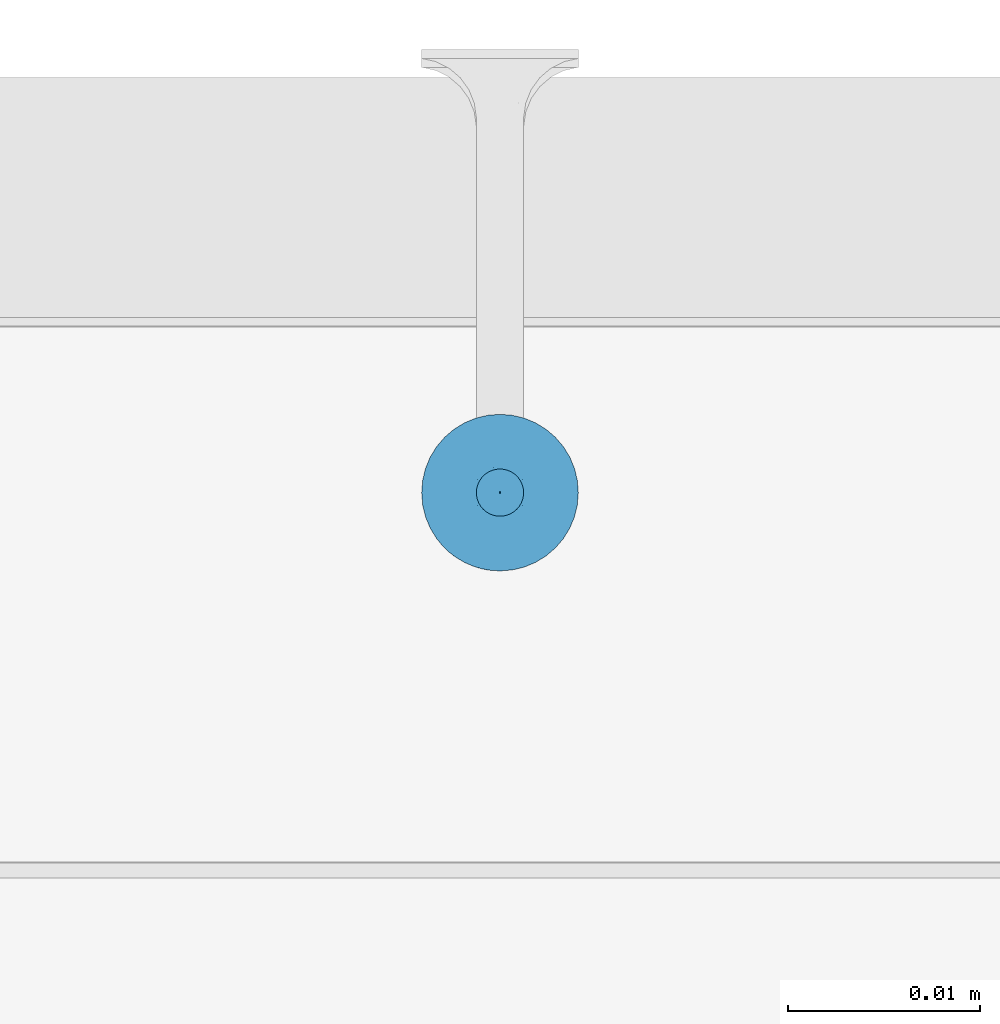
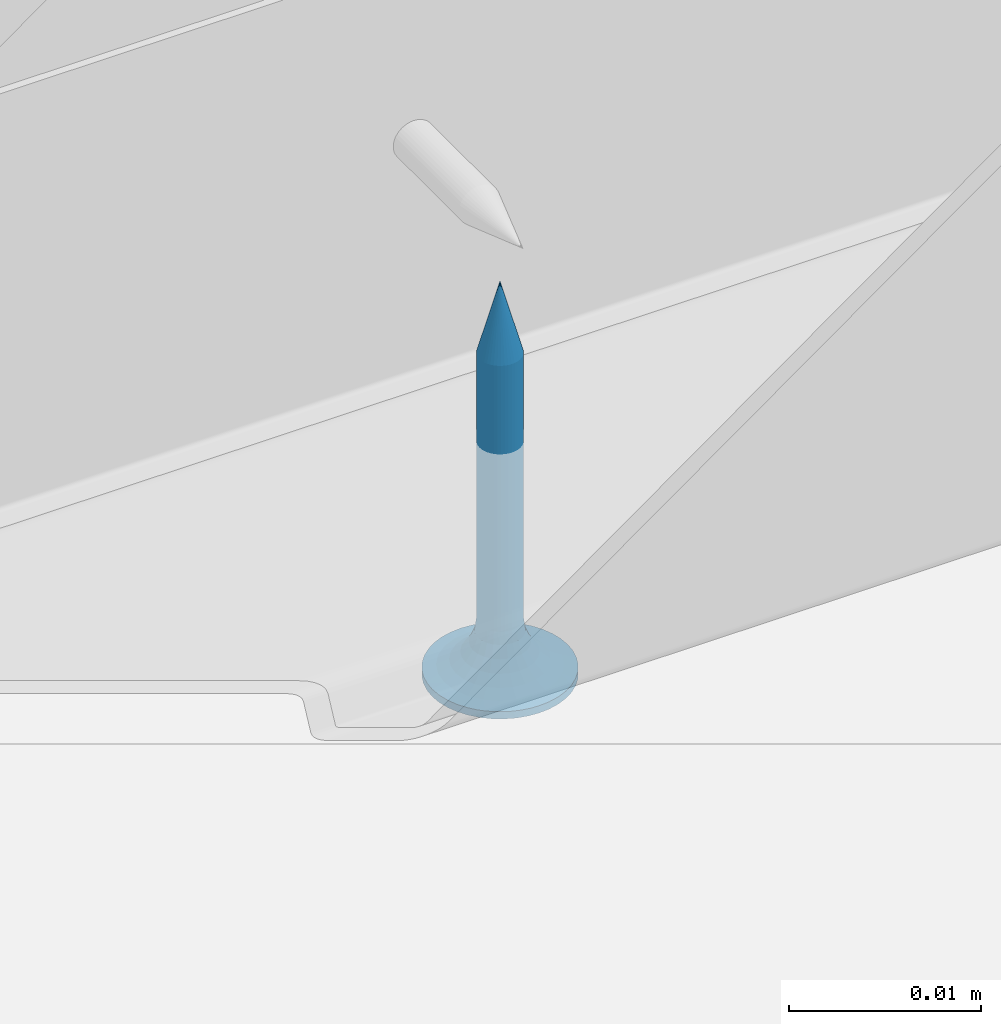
# One storey, part 76 of 79: 1 slab.
"""IFC2X3 building model written with IfcOpenShell, lengths in millimetres."""

from ifc_helpers import new_model, entity, si_unit, converted_unit, direction, frame, origin, origin_with_axes, place, context, project, spatial, faceted_brep, element, save


model = new_model("IFC2X3")

# Units and contexts
model_context = context("Model", 3, precision=1e-05, world=origin(), true_north=direction((0.0, 1.0, 0.0)))
ifc_project = project(units=[si_unit("LENGTHUNIT", "METRE", prefix="MILLI"), si_unit("AREAUNIT", "SQUARE_METRE"), si_unit("VOLUMEUNIT", "CUBIC_METRE"), converted_unit("PLANEANGLEUNIT", "DEGREE", entity("IfcPlaneAngleMeasure", 0.01745), si_unit("PLANEANGLEUNIT", "RADIAN"), dimensions=[0, 0, 0, 0, 0, 0, 0]), si_unit("SOLIDANGLEUNIT", "STERADIAN"), si_unit("MASSUNIT", "GRAM"), si_unit("TIMEUNIT", "SECOND"), si_unit("THERMODYNAMICTEMPERATUREUNIT", "DEGREE_CELSIUS"), si_unit("LUMINOUSINTENSITYUNIT", "LUMEN")], contexts=[model_context])

# Site, building, storey
site_placement = place(None, origin_with_axes())
site = spatial("IfcSite", under=ifc_project, at=site_placement, Name="Default Site", CompositionType="ELEMENT")
building_placement = place(site_placement, origin_with_axes())
building = spatial("IfcBuilding", under=site, at=building_placement, Name="Default Building", CompositionType="ELEMENT")
storey_placement = place(building_placement, origin_with_axes())
storey = spatial("IfcBuildingStorey", under=building, at=storey_placement, Name="Default Building Storey", CompositionType="ELEMENT", Elevation=0.0)

# Slab
slab_placement = place(storey_placement, frame((3434.616074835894, 1657.000565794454, 4371.306162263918), z_axis=(0.0, 1.0, 2.220446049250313e-16), x_axis=(1.0, -1.802054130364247e-31, 8.115730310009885e-16)))
element("IfcSlab", 1, at=slab_placement, inside=storey, Name="Wkręt RIGIPS TN 25", context=model_context, shape_type="Brep", body=[
    faceted_brep([(-136.5890362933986, 3387.475459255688, 554.9298199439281), (-136.4636235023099, 3387.475459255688, 555.0766594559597), (-136.4636235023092, 3370.55807436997, 555.0766594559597), (-136.5890362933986, 3370.55807436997, 554.9298199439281), (-136.9005263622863, 3387.475459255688, 554.7035091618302), (-136.9005263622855, 3370.55807436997, 554.7035091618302), (-137.0789337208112, 3370.55807436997, 554.6296104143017), (-137.078933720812, 3387.475459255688, 554.6296104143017), (-137.2667048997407, 3387.475459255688, 554.5845305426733), (-137.2667048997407, 3370.55807436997, 554.5845305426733), (-137.4592163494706, 3370.55807436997, 554.5693795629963), (-137.4592163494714, 3387.475459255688, 554.5693795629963), (-136.4636235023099, 3387.475459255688, 556.5233405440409), (-136.5890362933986, 3387.475459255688, 556.6701800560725), (-136.5890362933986, 3370.55807436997, 556.6701800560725), (-136.4636235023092, 3370.55807436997, 556.5233405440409), (-138.4548091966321, 3370.55807436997, 556.5233405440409), (-138.3293964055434, 3370.55807436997, 556.6701800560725), (-138.3293964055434, 3387.475459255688, 556.6701800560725), (-138.4548091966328, 3387.475459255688, 556.5233405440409), (-136.7358758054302, 3370.55807436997, 554.8044071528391), (-136.7358758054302, 3387.475459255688, 554.8044071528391), (-138.1825568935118, 3387.475459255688, 556.7955928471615), (-138.1825568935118, 3370.55807436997, 556.7955928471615), (-138.0179063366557, 3370.55807436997, 556.8964908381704), (-138.0179063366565, 3387.475459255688, 556.8964908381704), (-136.3627255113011, 3387.475459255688, 556.3586899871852), (-136.3627255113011, 3370.55807436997, 556.3586899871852), (-136.7358758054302, 3387.475459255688, 556.7955928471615), (-136.7358758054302, 3370.55807436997, 556.7955928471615), (-137.6517277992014, 3387.475459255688, 554.5845305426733), (-137.6517277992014, 3370.55807436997, 554.5845305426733), (-137.83949897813, 3370.55807436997, 554.6296104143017), (-137.8394989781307, 3387.475459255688, 554.6296104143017), (-136.3627255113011, 3387.475459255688, 555.241310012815), (-136.3627255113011, 3370.55807436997, 555.241310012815), (-138.0179063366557, 3370.55807436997, 554.7035091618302), (-138.0179063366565, 3387.475459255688, 554.7035091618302), (-138.6746858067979, 3370.55807436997, 555.6074885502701), (-138.6898367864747, 3370.55807436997, 555.8000000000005), (-138.6898367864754, 3387.475459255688, 555.8000000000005), (-138.6746858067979, 3387.475459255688, 555.6074885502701), (-136.2285959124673, 3387.475459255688, 555.8000000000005), (-136.2437468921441, 3387.475459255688, 555.9925114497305), (-136.2437468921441, 3370.55807436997, 555.9925114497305), (-136.2285959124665, 3370.55807436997, 555.8000000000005), (-138.3293964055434, 3370.55807436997, 554.9298199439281), (-138.4548091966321, 3370.55807436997, 555.0766594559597), (-138.4548091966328, 3387.475459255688, 555.0766594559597), (-138.3293964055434, 3387.475459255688, 554.9298199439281), (-137.83949897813, 3370.55807436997, 556.9703895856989), (-137.8394989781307, 3387.475459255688, 556.9703895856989), (-138.1825568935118, 3370.55807436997, 554.8044071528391), (-138.1825568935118, 3387.475459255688, 554.8044071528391), (-138.5557071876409, 3370.55807436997, 555.241310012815), (-138.6296059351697, 3370.55807436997, 555.4197173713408), (-138.6296059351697, 3387.475459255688, 555.4197173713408), (-138.5557071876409, 3387.475459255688, 555.241310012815), (-136.2888267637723, 3387.475459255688, 555.4197173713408), (-136.2437468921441, 3387.475459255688, 555.6074885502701), (-136.2437468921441, 3370.55807436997, 555.6074885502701), (-136.2888267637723, 3370.55807436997, 555.4197173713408), (-136.2888267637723, 3387.475459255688, 556.1802826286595), (-136.2888267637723, 3370.55807436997, 556.1802826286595), (-137.4592163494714, 3387.475459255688, 557.0306204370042), (-137.4592163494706, 3370.55807436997, 557.0306204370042), (-137.2667048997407, 3370.55807436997, 557.0154694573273), (-137.2667048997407, 3387.475459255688, 557.0154694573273), (-137.0789337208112, 3370.55807436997, 556.9703895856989), (-137.078933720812, 3387.475459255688, 556.9703895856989), (-137.6517277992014, 3387.475459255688, 557.0154694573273), (-137.6517277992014, 3370.55807436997, 557.0154694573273), (-136.9005263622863, 3387.475459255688, 556.8964908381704), (-136.9005263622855, 3370.55807436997, 556.8964908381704), (-138.6296059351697, 3370.55807436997, 556.1802826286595), (-138.5557071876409, 3370.55807436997, 556.3586899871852), (-138.5557071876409, 3387.475459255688, 556.3586899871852), (-138.6296059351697, 3387.475459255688, 556.1802826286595), (-138.6746858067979, 3370.55807436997, 555.9925114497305), (-138.6746858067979, 3387.475459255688, 555.9925114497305), (-141.5377463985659, 3390.556721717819, 555.8000000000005), (-141.5377463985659, 3391.020944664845, 555.8000000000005), (-141.4875329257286, 3391.020944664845, 555.1619773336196), (-141.4875329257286, 3390.556721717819, 555.1619773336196), (-141.338128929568, 3391.020944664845, 554.539664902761), (-141.338128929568, 3390.556721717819, 554.539664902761), (-141.0932132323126, 3391.020944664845, 553.948386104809), (-141.0932132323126, 3390.556721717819, 553.948386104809), (-140.7588164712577, 3391.020944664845, 553.4027001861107), (-140.7588164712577, 3390.556721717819, 553.4027001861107), (-140.3431726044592, 3391.020944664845, 552.9160437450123), (-140.4541727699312, 3390.556721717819, 553.0314907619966), (-140.1080097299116, 3390.556721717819, 552.6986614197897), (-139.8565161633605, 3391.020944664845, 552.5003998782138), (-139.7251262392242, 3390.556721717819, 552.4088262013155), (-139.3108302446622, 3391.020944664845, 552.1660031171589), (-139.3108302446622, 3390.556721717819, 552.1660031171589), (-138.8708651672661, 3390.556721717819, 551.9735584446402), (-138.7195514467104, 3391.020944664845, 551.9210874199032), (-138.4113302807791, 3390.556721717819, 551.8341600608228), (-137.9385961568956, 3390.556721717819, 551.7497404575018), (-138.0972390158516, 3391.020944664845, 551.7716834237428), (-137.4592163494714, 3391.020944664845, 551.7214699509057), (-137.4592163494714, 3390.556721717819, 551.7214699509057), (-136.8211936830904, 3391.020944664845, 551.7716834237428), (-136.8211936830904, 3390.556721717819, 551.7716834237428), (-136.1988812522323, 3391.020944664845, 551.9210874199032), (-136.1988812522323, 3390.556721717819, 551.9210874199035), (-135.6076024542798, 3391.020944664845, 552.1660031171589), (-135.6076024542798, 3390.556721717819, 552.1660031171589), (-135.0619165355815, 3391.020944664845, 552.5003998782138), (-135.0619165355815, 3390.556721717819, 552.5003998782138), (-134.5752600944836, 3391.020944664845, 552.9160437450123), (-134.5752600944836, 3390.556721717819, 552.9160437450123), (-134.1596162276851, 3391.020944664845, 553.4027001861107), (-134.1596162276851, 3390.556721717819, 553.4027001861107), (-133.8252194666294, 3391.020944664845, 553.948386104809), (-133.8252194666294, 3390.556721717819, 553.948386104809), (-133.580303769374, 3391.020944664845, 554.539664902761), (-133.580303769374, 3390.556721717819, 554.539664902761), (-133.4308997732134, 3391.020944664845, 556.438022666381), (-133.4308997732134, 3390.556721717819, 556.438022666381), (-133.3806863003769, 3390.556721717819, 555.8000000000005), (-133.3806863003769, 3391.020944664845, 555.8000000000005), (-133.4308997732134, 3390.556721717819, 555.1619773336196), (-133.4308997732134, 3391.020944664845, 555.1619773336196), (-133.580303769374, 3391.020944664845, 557.0603350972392), (-133.580303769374, 3390.556721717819, 557.0603350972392), (-133.8252194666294, 3391.020944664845, 557.6516138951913), (-133.8252194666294, 3390.556721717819, 557.6516138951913), (-134.1596162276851, 3391.020944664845, 558.1972998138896), (-134.1596162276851, 3390.556721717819, 558.1972998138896), (-134.5752600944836, 3391.020944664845, 558.683956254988), (-134.5752600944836, 3390.556721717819, 558.683956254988), (-135.0619165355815, 3391.020944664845, 559.0996001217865), (-135.0619165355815, 3390.556721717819, 559.0996001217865), (-135.6076024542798, 3391.020944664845, 559.4339968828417), (-135.6076024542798, 3390.556721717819, 559.4339968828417), (-136.1988812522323, 3391.020944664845, 559.6789125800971), (-136.1988812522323, 3390.556721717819, 559.6789125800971), (-136.8211936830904, 3391.020944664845, 559.8283165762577), (-136.8211936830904, 3390.556721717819, 559.8283165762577), (-137.4592163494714, 3391.020944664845, 559.8785300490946), (-137.4592163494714, 3390.556721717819, 559.8785300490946), (-138.0972390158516, 3391.020944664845, 559.8283165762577), (-138.0972390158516, 3390.556721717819, 559.8283165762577), (-138.7195514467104, 3391.020944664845, 559.6789125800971), (-138.7195514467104, 3390.556721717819, 559.6789125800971), (-139.3108302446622, 3391.020944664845, 559.4339968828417), (-139.3108302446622, 3390.556721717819, 559.4339968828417), (-139.8565161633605, 3391.020944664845, 559.0996001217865), (-139.8565161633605, 3390.556721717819, 559.0996001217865), (-140.3431726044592, 3391.020944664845, 558.683956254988), (-140.3431726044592, 3390.556721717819, 558.683956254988), (-140.7588164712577, 3391.020944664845, 558.1972998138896), (-140.7588164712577, 3390.556721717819, 558.1972998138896), (-141.0932132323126, 3391.020944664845, 557.6516138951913), (-141.0932132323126, 3390.556721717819, 557.6516138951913), (-141.338128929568, 3391.020944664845, 557.0603350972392), (-141.338128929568, 3390.556721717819, 557.0603350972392), (-141.4875329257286, 3391.020944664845, 556.438022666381), (-141.4875329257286, 3390.556721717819, 556.438022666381), (-137.8060615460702, 3388.229732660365, 554.5055560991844), (-137.4592163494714, 3388.229732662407, 554.4598930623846), (-138.1292698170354, 3388.229732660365, 554.6394333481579), (-138.4068150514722, 3388.229732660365, 554.8524012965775), (-138.6197830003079, 3388.229732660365, 555.1299465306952), (-138.7536602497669, 3388.229732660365, 555.4531548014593), (-138.7993232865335, 3388.229732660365, 555.7999999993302), (-138.7536602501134, 3388.229732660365, 556.1468451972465), (-138.6197830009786, 3388.229732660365, 556.4700534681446), (-138.4068150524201, 3388.229732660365, 556.7475987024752), (-138.1292698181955, 3388.229732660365, 556.9605666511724), (-137.8060615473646, 3388.229732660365, 557.0944439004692), (-137.4592163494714, 3388.229732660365, 557.1401069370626), (-137.1123711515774, 3388.229732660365, 557.0944439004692), (-136.7891628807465, 3388.229732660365, 556.9605666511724), (-136.5116176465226, 3388.229732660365, 556.7475987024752), (-136.2986496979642, 3388.229732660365, 556.4700534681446), (-136.1647724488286, 3388.229732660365, 556.1468451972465), (-136.1191094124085, 3388.229732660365, 555.7999999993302), (-136.1647724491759, 3388.229732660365, 555.4531548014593), (-136.2986496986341, 3388.229732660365, 555.1299465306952), (-136.5116176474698, 3388.229732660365, 554.8524012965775), (-136.7891628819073, 3388.229732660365, 554.6394333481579), (-137.1123711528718, 3388.229732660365, 554.5055560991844), (-137.4592163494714, 3388.936142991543, 554.1737111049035), (-137.8801308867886, 3388.936142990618, 554.2291255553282), (-138.2723607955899, 3388.936142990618, 554.39159250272), (-138.6091762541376, 3388.936142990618, 554.6500400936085), (-138.8676238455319, 3388.936142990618, 554.9868555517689), (-139.0300907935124, 3388.936142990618, 555.3790854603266), (-139.0855052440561, 3388.936142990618, 555.7999999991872), (-139.0300907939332, 3388.936142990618, 556.2209145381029), (-138.8676238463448, 3388.936142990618, 556.6131444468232), (-138.6091762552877, 3388.936142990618, 556.949959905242), (-138.2723607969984, 3388.936142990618, 557.2084074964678), (-137.8801308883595, 3388.936142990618, 557.3708744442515), (-137.4592163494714, 3388.936142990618, 557.4262888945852), (-137.0383018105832, 3388.936142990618, 557.3708744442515), (-136.6460719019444, 3388.936142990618, 557.2084074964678), (-136.3092564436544, 3388.936142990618, 556.949959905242), (-136.0508088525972, 3388.936142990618, 556.6131444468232), (-135.8883419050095, 3388.936142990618, 556.2209145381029), (-135.8329274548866, 3388.936142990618, 555.7999999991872), (-135.8883419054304, 3388.936142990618, 555.3790854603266), (-136.0508088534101, 3388.936142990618, 554.9868555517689), (-136.3092564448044, 3388.936142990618, 554.6500400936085), (-136.6460719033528, 3388.936142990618, 554.39159250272), (-137.0383018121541, 3388.936142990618, 554.2291255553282), (-137.4592163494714, 3389.553938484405, 553.727343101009), (-137.9956594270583, 3389.553938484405, 553.7979671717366), (-138.4955447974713, 3389.553938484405, 554.0050264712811), (-138.9248060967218, 3389.553938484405, 554.3344102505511), (-139.2541898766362, 3389.553938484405, 554.7636715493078), (-139.46124917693, 3389.553938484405, 555.2635569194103), (-139.5318732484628, 3389.553938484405, 555.7999999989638), (-139.4612491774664, 3389.553938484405, 556.3364430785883), (-139.2541898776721, 3389.553938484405, 556.8363284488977), (-138.9248060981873, 3389.553938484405, 557.2655897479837), (-138.495544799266, 3389.553938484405, 557.5949735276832), (-137.9956594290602, 3389.553938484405, 557.8020328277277), (-137.4592163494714, 3389.553938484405, 557.8726568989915), (-136.9227732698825, 3389.553938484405, 557.8020328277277), (-136.422887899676, 3389.553938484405, 557.5949735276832), (-135.9936266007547, 3389.553938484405, 557.2655897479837), (-135.6642428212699, 3389.553938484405, 556.8363284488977), (-135.4571835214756, 3389.553938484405, 556.3364430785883), (-135.3865594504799, 3389.553938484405, 555.7999999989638), (-135.457183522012, 3389.553938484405, 555.2635569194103), (-135.6642428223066, 3389.553938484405, 554.7636715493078), (-135.9936266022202, 3389.553938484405, 554.3344102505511), (-136.4228879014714, 3389.553938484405, 554.0050264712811), (-136.9227732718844, 3389.553938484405, 553.7979671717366), (-137.4592163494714, 3390.04747944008, 553.1465393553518), (-138.1459824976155, 3390.047479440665, 553.2369538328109), (-138.7859466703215, 3390.047479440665, 553.5020356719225), (-139.3354963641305, 3390.047479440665, 553.9237199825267), (-139.757180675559, 3390.047479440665, 554.4732696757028), (-140.0222625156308, 3390.047479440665, 555.1132338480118), (-140.1126769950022, 3390.047479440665, 555.7999999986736), (-140.0222625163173, 3390.047479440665, 556.4867661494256), (-139.7571806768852, 3390.047479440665, 557.1267303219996), (-139.3354963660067, 3390.047479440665, 557.6762800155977), (-138.7859466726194, 3390.047479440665, 558.0979643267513), (-138.1459825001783, 3390.047479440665, 558.3630461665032), (-137.4592163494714, 3390.047479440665, 558.4534606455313), (-136.7724501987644, 3390.047479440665, 558.3630461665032), (-136.1324860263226, 3390.047479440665, 558.0979643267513), (-135.5829363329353, 3390.047479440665, 557.6762800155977), (-135.1612520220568, 3390.047479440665, 557.1267303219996), (-134.8961701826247, 3390.047479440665, 556.4867661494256), (-134.8057557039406, 3390.047479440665, 555.7999999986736), (-134.8961701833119, 3390.047479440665, 555.1132338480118), (-135.1612520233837, 3390.047479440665, 554.4732696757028), (-135.5829363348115, 3390.047479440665, 553.9237199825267), (-136.1324860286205, 3390.047479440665, 553.5020356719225), (-136.7724502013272, 3390.047479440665, 553.2369538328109), (-137.4592163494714, 3390.388294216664, 552.4648055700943), (-138.3224281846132, 3390.388294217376, 552.5784495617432), (-139.1268135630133, 3390.388294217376, 552.9116368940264), (-139.8175549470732, 3390.388294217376, 553.4416613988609), (-140.3475794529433, 3390.388294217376, 554.1324027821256), (-140.6807667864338, 3390.388294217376, 554.9367881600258), (-140.7944107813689, 3390.388294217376, 555.7999999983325), (-140.6807667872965, 3390.388294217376, 556.6632118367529), (-140.3475794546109, 3390.388294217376, 557.4675972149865), (-139.8175549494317, 3390.388294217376, 558.1583385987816), (-139.1268135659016, 3390.388294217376, 558.6883631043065), (-138.3224281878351, 3390.388294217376, 559.0215504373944), (-137.4592163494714, 3390.388294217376, 559.1351944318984), (-136.5960045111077, 3390.388294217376, 559.0215504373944), (-135.7916191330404, 3390.388294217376, 558.6883631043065), (-135.1008777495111, 3390.388294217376, 558.1583385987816), (-134.5708532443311, 3390.388294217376, 557.4675972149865), (-134.2376659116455, 3390.388294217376, 556.6632118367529), (-134.1240219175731, 3390.388294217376, 555.7999999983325), (-134.2376659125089, 3390.388294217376, 554.9367881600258), (-134.5708532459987, 3390.388294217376, 554.1324027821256), (-135.1008777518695, 3390.388294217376, 553.4416613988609), (-135.7916191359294, 3390.388294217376, 552.9116368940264), (-136.5960045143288, 3390.388294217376, 552.5784495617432), (-137.4592163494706, 3366.021033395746, 555.8000000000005), (-139.9592163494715, 3391.020944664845, 556.3000000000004), (-137.9592163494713, 3391.020944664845, 556.3000000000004), (-139.9592163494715, 3391.020944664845, 555.3000000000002), (-137.9592163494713, 3391.020944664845, 555.3000000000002), (-137.9592163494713, 3391.020944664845, 553.3000000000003), (-136.9592163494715, 3391.020944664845, 553.3000000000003), (-136.9592163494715, 3391.020944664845, 555.3000000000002), (-134.9592163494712, 3391.020944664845, 555.3000000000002), (-134.9592163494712, 3391.020944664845, 556.3000000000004), (-136.9592163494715, 3391.020944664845, 556.3000000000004), (-136.9592163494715, 3391.020944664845, 558.3000000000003), (-137.9592163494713, 3391.020944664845, 558.3000000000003), (-136.9592163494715, 3390.128974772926, 556.3000000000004), (-134.9592163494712, 3390.128974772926, 556.3000000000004), (-134.9592163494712, 3390.128974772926, 555.3000000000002), (-136.9592163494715, 3390.128974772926, 555.3000000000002), (-136.9592163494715, 3390.128974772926, 553.3000000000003), (-137.9592163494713, 3390.128974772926, 553.3000000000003), (-137.9592163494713, 3390.128974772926, 555.3000000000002), (-139.9592163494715, 3390.128974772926, 555.3000000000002), (-139.9592163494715, 3390.128974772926, 556.3000000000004), (-137.9592163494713, 3390.128974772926, 556.3000000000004), (-137.9592163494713, 3390.128974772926, 558.3000000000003), (-136.9592163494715, 3390.128974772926, 558.3000000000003)], [[[0, 1, 2, 3]], [[4, 5, 6, 7]], [[8, 9, 10, 11]], [[12, 13, 14, 15]], [[16, 17, 18, 19]], [[0, 3, 20, 21]], [[22, 23, 24, 25]], [[26, 12, 15, 27]], [[28, 29, 14, 13]], [[30, 31, 32, 33]], [[1, 34, 35, 2]], [[18, 17, 23, 22]], [[7, 6, 9, 8]], [[33, 32, 36, 37]], [[38, 39, 40, 41]], [[42, 43, 44, 45]], [[46, 47, 48, 49]], [[25, 24, 50, 51]], [[37, 36, 52, 53]], [[54, 55, 56, 57]], [[53, 52, 46, 49]], [[47, 54, 57, 48]], [[58, 59, 60, 61]], [[59, 42, 45, 60]], [[43, 62, 63, 44]], [[64, 65, 66, 67]], [[67, 66, 68, 69]], [[55, 38, 41, 56]], [[70, 71, 65, 64]], [[72, 73, 29, 28]], [[74, 75, 76, 77]], [[69, 68, 73, 72]], [[39, 78, 79, 40]], [[75, 16, 19, 76]], [[62, 26, 27, 63]], [[11, 10, 31, 30]], [[21, 20, 5, 4]], [[34, 58, 61, 35]], [[51, 50, 71, 70]], [[78, 74, 77, 79]], [[80, 81, 82, 83]], [[84, 85, 83, 82]], [[86, 87, 85, 84]], [[87, 86, 88, 89]], [[88, 90, 89]], [[90, 91, 89]], [[92, 91, 93]], [[91, 90, 93]], [[93, 94, 92]], [[93, 95, 94]], [[95, 96, 94]], [[97, 96, 98]], [[96, 95, 98]], [[98, 99, 97]], [[100, 99, 101]], [[99, 98, 101]], [[101, 102, 100]], [[102, 103, 100]], [[103, 102, 104, 105]], [[106, 107, 105, 104]], [[108, 109, 107, 106]], [[109, 108, 110, 111]], [[112, 113, 111, 110]], [[113, 112, 114, 115]], [[116, 117, 115, 114]], [[118, 119, 117, 116]], [[120, 121, 122, 123]], [[123, 122, 124, 125]], [[119, 118, 125, 124]], [[126, 127, 121, 120]], [[128, 129, 127, 126]], [[129, 128, 130, 131]], [[132, 133, 131, 130]], [[133, 132, 134, 135]], [[136, 137, 135, 134]], [[138, 139, 137, 136]], [[139, 138, 140, 141]], [[142, 143, 141, 140]], [[143, 142, 144, 145]], [[146, 147, 145, 144]], [[148, 149, 147, 146]], [[149, 148, 150, 151]], [[152, 153, 151, 150]], [[153, 152, 154, 155]], [[156, 157, 155, 154]], [[158, 159, 157, 156]], [[159, 158, 160, 161]], [[81, 80, 161, 160]], [[162, 11, 30]], [[162, 163, 11]], [[30, 33, 162]], [[162, 33, 164]], [[37, 164, 33]], [[164, 37, 53]], [[53, 165, 164]], [[53, 49, 165]], [[166, 49, 48]], [[166, 165, 49]], [[48, 57, 166]], [[166, 57, 167]], [[56, 167, 57]], [[167, 56, 41]], [[41, 168, 167]], [[41, 40, 168]], [[169, 40, 79]], [[169, 168, 40]], [[79, 77, 169]], [[169, 77, 170]], [[76, 170, 77]], [[170, 76, 19]], [[19, 171, 170]], [[19, 18, 171]], [[172, 18, 22]], [[172, 171, 18]], [[22, 25, 172]], [[172, 25, 173]], [[51, 173, 25]], [[173, 51, 70]], [[70, 174, 173]], [[70, 64, 174]], [[175, 64, 67]], [[175, 174, 64]], [[67, 69, 175]], [[175, 69, 176]], [[72, 176, 69]], [[176, 72, 28]], [[28, 177, 176]], [[28, 13, 177]], [[178, 13, 12]], [[178, 177, 13]], [[12, 26, 178]], [[178, 26, 179]], [[62, 179, 26]], [[179, 62, 43]], [[43, 180, 179]], [[43, 42, 180]], [[181, 42, 59]], [[181, 180, 42]], [[59, 58, 181]], [[181, 58, 182]], [[34, 182, 58]], [[182, 34, 1]], [[1, 183, 182]], [[1, 0, 183]], [[184, 0, 21]], [[184, 183, 0]], [[21, 4, 184]], [[184, 4, 185]], [[7, 185, 4]], [[185, 7, 8]], [[8, 163, 185]], [[8, 11, 163]], [[186, 163, 187]], [[162, 187, 163]], [[164, 188, 187, 162]], [[165, 189, 188, 164]], [[166, 190, 189, 165]], [[167, 191, 190, 166]], [[168, 192, 191, 167]], [[169, 193, 192, 168]], [[170, 194, 193, 169]], [[171, 195, 194, 170]], [[172, 196, 195, 171]], [[173, 197, 196, 172]], [[174, 198, 197, 173]], [[175, 199, 198, 174]], [[176, 200, 199, 175]], [[177, 201, 200, 176]], [[178, 202, 201, 177]], [[179, 203, 202, 178]], [[180, 204, 203, 179]], [[181, 205, 204, 180]], [[182, 206, 205, 181]], [[183, 207, 206, 182]], [[184, 208, 207, 183]], [[185, 209, 208, 184]], [[185, 163, 209]], [[186, 209, 163]], [[210, 186, 211]], [[187, 211, 186]], [[188, 212, 211, 187]], [[189, 213, 212, 188]], [[190, 214, 213, 189]], [[191, 215, 214, 190]], [[192, 216, 215, 191]], [[193, 217, 216, 192]], [[194, 218, 217, 193]], [[195, 219, 218, 194]], [[196, 220, 219, 195]], [[197, 221, 220, 196]], [[198, 222, 221, 197]], [[199, 223, 222, 198]], [[200, 224, 223, 199]], [[201, 225, 224, 200]], [[202, 226, 225, 201]], [[203, 227, 226, 202]], [[204, 228, 227, 203]], [[205, 229, 228, 204]], [[206, 230, 229, 205]], [[207, 231, 230, 206]], [[208, 232, 231, 207]], [[209, 233, 232, 208]], [[209, 186, 233]], [[210, 233, 186]], [[234, 210, 235]], [[211, 235, 210]], [[212, 236, 235, 211]], [[213, 237, 236, 212]], [[214, 238, 237, 213]], [[215, 239, 238, 214]], [[216, 240, 239, 215]], [[217, 241, 240, 216]], [[218, 242, 241, 217]], [[219, 243, 242, 218]], [[220, 244, 243, 219]], [[221, 245, 244, 220]], [[222, 246, 245, 221]], [[223, 247, 246, 222]], [[224, 248, 247, 223]], [[225, 249, 248, 224]], [[226, 250, 249, 225]], [[227, 251, 250, 226]], [[228, 252, 251, 227]], [[229, 253, 252, 228]], [[230, 254, 253, 229]], [[231, 255, 254, 230]], [[232, 256, 255, 231]], [[233, 257, 256, 232]], [[233, 210, 257]], [[234, 257, 210]], [[258, 99, 100]], [[258, 259, 99]], [[100, 103, 258]], [[258, 234, 259]], [[235, 259, 234]], [[259, 96, 97]], [[259, 260, 96]], [[97, 99, 259]], [[236, 260, 259, 235]], [[261, 91, 92]], [[260, 92, 94]], [[260, 261, 92]], [[94, 96, 260]], [[237, 261, 260, 236]], [[262, 87, 89]], [[89, 261, 262]], [[89, 91, 261]], [[238, 262, 261, 237]], [[85, 87, 263]], [[262, 263, 87]], [[239, 263, 262, 238]], [[263, 80, 83]], [[263, 264, 80]], [[83, 85, 263]], [[240, 264, 263, 239]], [[265, 159, 161]], [[161, 264, 265]], [[161, 80, 264]], [[241, 265, 264, 240]], [[265, 266, 157, 159]], [[242, 266, 265, 241]], [[266, 153, 155]], [[266, 267, 153]], [[155, 157, 266]], [[243, 267, 266, 242]], [[268, 149, 151]], [[151, 267, 268]], [[151, 153, 267]], [[244, 268, 267, 243]], [[268, 269, 147, 149]], [[245, 269, 268, 244]], [[269, 143, 145]], [[269, 270, 143]], [[145, 147, 269]], [[246, 270, 269, 245]], [[271, 139, 141]], [[141, 270, 271]], [[141, 143, 270]], [[247, 271, 270, 246]], [[271, 272, 137, 139]], [[248, 272, 271, 247]], [[272, 133, 135]], [[272, 273, 133]], [[135, 137, 272]], [[249, 273, 272, 248]], [[274, 129, 131]], [[131, 273, 274]], [[131, 133, 273]], [[250, 274, 273, 249]], [[274, 275, 127, 129]], [[251, 275, 274, 250]], [[275, 122, 121]], [[275, 276, 122]], [[121, 127, 275]], [[252, 276, 275, 251]], [[277, 119, 124]], [[124, 276, 277]], [[124, 122, 276]], [[253, 277, 276, 252]], [[117, 119, 278]], [[277, 278, 119]], [[254, 278, 277, 253]], [[278, 113, 115]], [[278, 279, 113]], [[115, 117, 278]], [[255, 279, 278, 254]], [[280, 109, 111]], [[111, 279, 280]], [[111, 113, 279]], [[256, 280, 279, 255]], [[107, 109, 281]], [[280, 281, 109]], [[257, 281, 280, 256]], [[257, 234, 281]], [[258, 281, 234]], [[281, 103, 105]], [[281, 258, 103]], [[105, 107, 281]], [[38, 55, 282]], [[282, 39, 38]], [[55, 54, 282]], [[47, 46, 282]], [[282, 54, 47]], [[52, 36, 282]], [[282, 46, 52]], [[36, 32, 282]], [[31, 10, 282]], [[282, 32, 31]], [[9, 6, 282]], [[282, 10, 9]], [[6, 5, 282]], [[20, 3, 282]], [[282, 5, 20]], [[2, 35, 282]], [[282, 3, 2]], [[35, 61, 282]], [[60, 45, 282]], [[282, 61, 60]], [[44, 63, 282]], [[282, 45, 44]], [[63, 27, 282]], [[15, 14, 282]], [[282, 27, 15]], [[29, 73, 282]], [[282, 14, 29]], [[73, 68, 282]], [[66, 65, 282]], [[282, 68, 66]], [[71, 50, 282]], [[282, 65, 71]], [[50, 24, 282]], [[23, 17, 282]], [[282, 24, 23]], [[16, 75, 282]], [[282, 17, 16]], [[75, 74, 282]], [[78, 39, 282]], [[282, 74, 78]], [[283, 156, 154, 284]], [[283, 285, 286, 287, 288, 289, 290, 291, 292, 293, 294, 284, 154, 152, 150, 148, 146, 144, 142, 140, 138, 136, 134, 132, 130, 128, 126, 120, 123, 125, 118, 116, 114, 112, 110, 108, 106, 104, 102, 101, 98, 95, 93, 90, 88, 86, 84, 82, 81, 160, 158, 156]], [[295, 296, 297, 298, 299, 300, 301, 302, 303, 304, 305, 306]], [[297, 290, 289, 298]], [[296, 291, 290, 297]], [[295, 292, 291, 296]], [[306, 293, 292, 295]], [[305, 294, 293, 306]], [[304, 284, 294, 305]], [[303, 283, 284, 304]], [[302, 285, 283, 303]], [[301, 286, 285, 302]], [[300, 287, 286, 301]], [[299, 288, 287, 300]], [[298, 289, 288, 299]]]),
])

save(model, "model.ifc")
